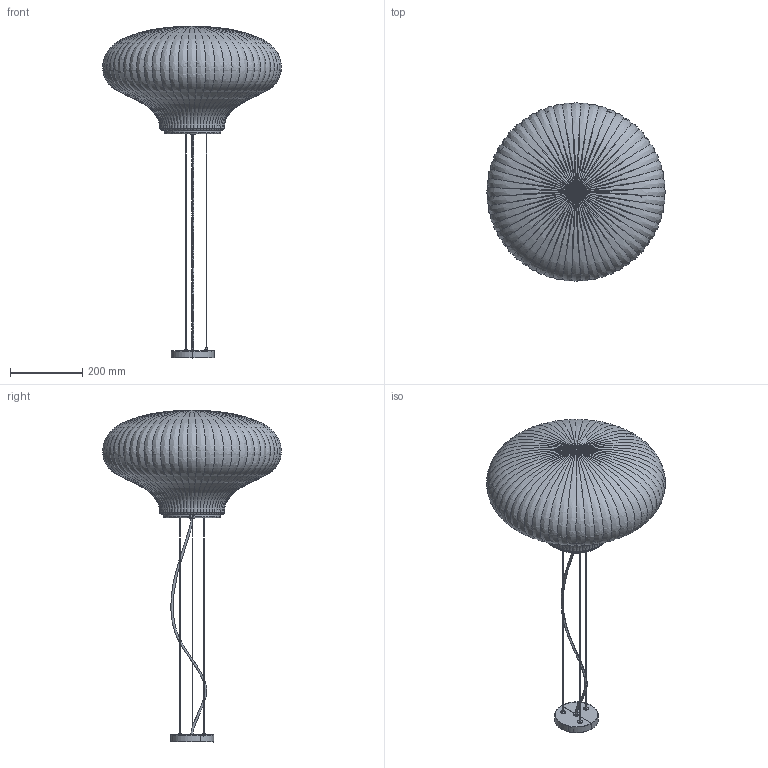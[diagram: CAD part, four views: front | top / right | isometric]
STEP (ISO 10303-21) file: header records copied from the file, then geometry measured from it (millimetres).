
FILE_DESCRIPTION(/* description */ (''),/* implementation_level */ '2;1');
FILE_NAME(/* name */ '28302.step',/* time_stamp */ '2024-06-13T10:29:09+02:00',/* author */ ('RenataManzini'),/* organization */ (''),/* preprocessor_version */ 'ST-DEVELOPER v20',/* originating_system */ 'AutoCAD Mechanical',/* authorisation */ '');
FILE_SCHEMA (('AUTOMOTIVE_DESIGN { 1 0 10303 214 3 1 1 }'));
Products named in the file (3): Product; soporte_isabelle - Lamp Holder-703298-_3D_; ISABELLE_500_dwg-706404-_3D_
Assembly tree (2 placements, depth 2):
  Product
    soporte_isabelle - Lamp Holder-703298-_3D_
    ISABELLE_500_dwg-706404-_3D_
Bounding box: 496.89 x 496.9 x 921.97 mm (x, y, z)
Volume: 62844281.7 mm3; surface area: 1242139.6 mm2
Topology: 11 solids, 11 shells, 538 faces, 1509 edges, 862 vertices
Faces by surface type: bspline 376, cylinder 101, plane 55, torus 6
Entity records: 152193 total; most frequent: CARTESIAN_POINT 141009, ORIENTED_EDGE 2760, DIRECTION 1651, EDGE_CURVE 1380, VERTEX_POINT 862, AXIS2_PLACEMENT_3D 658, EDGE_LOOP 576, B_SPLINE_CURVE_WITH_KNOTS 552
